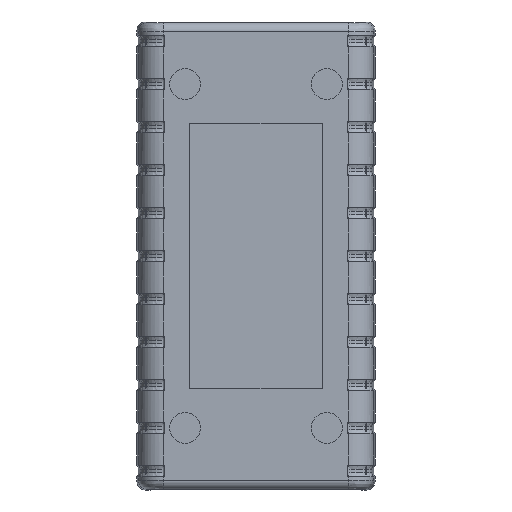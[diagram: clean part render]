
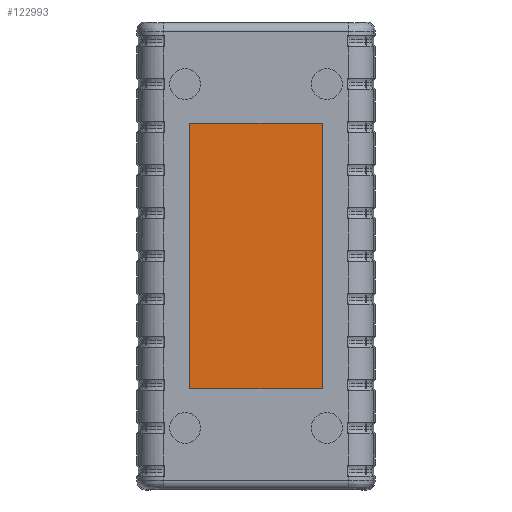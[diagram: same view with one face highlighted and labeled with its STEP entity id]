
A CAD part, front view. The second image highlights one B-rep face of the part: STEP entity #122993.
In plain terms, the highlighted planar face has unit normal (0, -1, 0).
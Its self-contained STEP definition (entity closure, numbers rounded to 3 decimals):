
#1710 = EDGE_LOOP ( 'NONE', ( #118753, #166872, #2285, #249041 ) ) ;
#2060 = CARTESIAN_POINT ( 'NONE',  ( -41.858, 0.7, 21.107 ) ) ;
#2285 = ORIENTED_EDGE ( 'NONE', *, *, #93727, .T. ) ;
#2489 = DIRECTION ( 'NONE',  ( 0., 1., 0. ) ) ;
#8072 = VERTEX_POINT ( 'NONE', #117662 ) ;
#8592 = VECTOR ( 'NONE', #124913, 1000. ) ;
#15788 = CARTESIAN_POINT ( 'NONE',  ( -11.858, 0.7, 21.107 ) ) ;
#17940 = AXIS2_PLACEMENT_3D ( 'NONE', #201237, #2489, #164038 ) ;
#23022 = VERTEX_POINT ( 'NONE', #166113 ) ;
#26640 = VECTOR ( 'NONE', #91163, 1000. ) ;
#44151 = CARTESIAN_POINT ( 'NONE',  ( -41.858, 0.7, 21.107 ) ) ;
#48700 = VECTOR ( 'NONE', #243409, 1000. ) ;
#69028 = CARTESIAN_POINT ( 'NONE',  ( -11.858, 0.7, 81.107 ) ) ;
#81833 = LINE ( 'NONE', #15788, #48700 ) ;
#82739 = DIRECTION ( 'NONE',  ( 1., 0., 0. ) ) ;
#88534 = LINE ( 'NONE', #108384, #26640 ) ;
#91163 = DIRECTION ( 'NONE',  ( -1., 0., 0. ) ) ;
#93727 = EDGE_CURVE ( 'NONE', #8072, #106518, #168581, .T. ) ;
#102632 = LINE ( 'NONE', #2060, #240975 ) ;
#106441 = EDGE_CURVE ( 'NONE', #106518, #23022, #102632, .T. ) ;
#106518 = VERTEX_POINT ( 'NONE', #147696 ) ;
#106763 = VERTEX_POINT ( 'NONE', #69028 ) ;
#108384 = CARTESIAN_POINT ( 'NONE',  ( -41.858, 0.7, 81.107 ) ) ;
#117662 = CARTESIAN_POINT ( 'NONE',  ( -41.858, 0.7, 81.107 ) ) ;
#118753 = ORIENTED_EDGE ( 'NONE', *, *, #240930, .T. ) ;
#119077 = PLANE ( 'NONE',  #17940 ) ;
#122993 = ADVANCED_FACE ( 'NONE', ( #162722 ), #119077, .F. ) ;
#124913 = DIRECTION ( 'NONE',  ( 0., 0., -1. ) ) ;
#147696 = CARTESIAN_POINT ( 'NONE',  ( -41.858, 0.7, 21.107 ) ) ;
#160361 = EDGE_CURVE ( 'NONE', #106763, #8072, #88534, .T. ) ;
#162722 = FACE_OUTER_BOUND ( 'NONE', #1710, .T. ) ;
#164038 = DIRECTION ( 'NONE',  ( 0., 0., 1. ) ) ;
#166113 = CARTESIAN_POINT ( 'NONE',  ( -11.858, 0.7, 21.107 ) ) ;
#166872 = ORIENTED_EDGE ( 'NONE', *, *, #160361, .T. ) ;
#168581 = LINE ( 'NONE', #44151, #8592 ) ;
#201237 = CARTESIAN_POINT ( 'NONE',  ( -26.858, 0.7, 51.107 ) ) ;
#240930 = EDGE_CURVE ( 'NONE', #23022, #106763, #81833, .T. ) ;
#240975 = VECTOR ( 'NONE', #82739, 1000. ) ;
#243409 = DIRECTION ( 'NONE',  ( 0., 0., 1. ) ) ;
#249041 = ORIENTED_EDGE ( 'NONE', *, *, #106441, .T. ) ;
